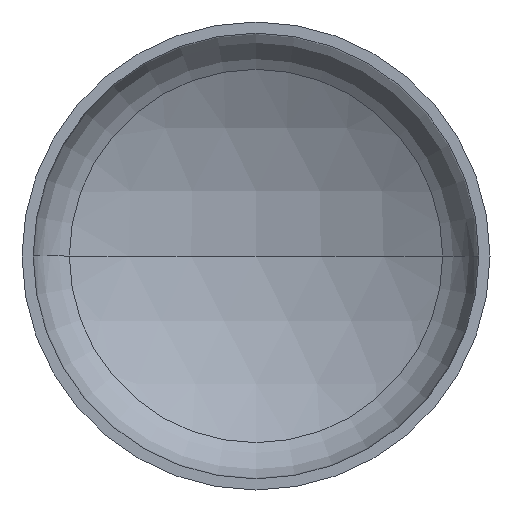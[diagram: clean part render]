
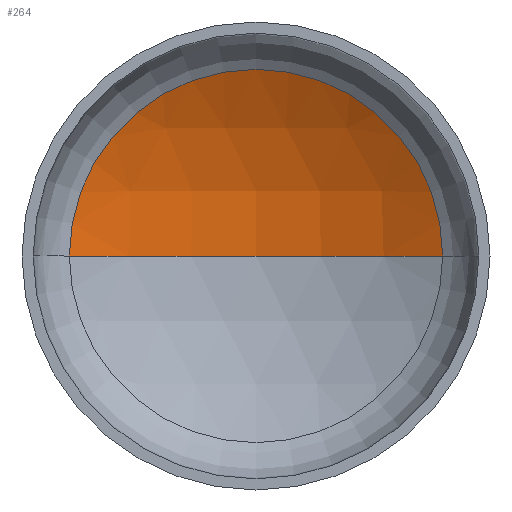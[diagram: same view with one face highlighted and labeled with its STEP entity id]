
A CAD part, front view. The second image highlights one B-rep face of the part: STEP entity #264.
In plain terms, the highlighted spherical face has radius 2880 mm.
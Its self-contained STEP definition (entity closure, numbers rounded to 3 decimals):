
#7 = ORIENTED_EDGE ( 'NONE', *, *, #259, .T. ) ;
#16 = DIRECTION ( 'NONE',  ( -1., 0., 0. ) ) ;
#18 = DIRECTION ( 'NONE',  ( 0., 0., -1. ) ) ;
#21 = CARTESIAN_POINT ( 'NONE',  ( 0., -1915.526, 0. ) ) ;
#25 = VERTEX_POINT ( 'NONE', #348 ) ;
#27 = EDGE_LOOP ( 'NONE', ( #162, #7, #133 ) ) ;
#30 = DIRECTION ( 'NONE',  ( -1., 0., 0. ) ) ;
#67 = SPHERICAL_SURFACE ( 'NONE', #82, 2880. ) ;
#82 = AXIS2_PLACEMENT_3D ( 'NONE', #135, #273, #30 ) ;
#83 = CIRCLE ( 'NONE', #103, 1435.665 ) ;
#89 = AXIS2_PLACEMENT_3D ( 'NONE', #386, #381, #380 ) ;
#102 = AXIS2_PLACEMENT_3D ( 'NONE', #21, #18, #16 ) ;
#103 = AXIS2_PLACEMENT_3D ( 'NONE', #226, #225, #137 ) ;
#133 = ORIENTED_EDGE ( 'NONE', *, *, #256, .T. ) ;
#135 = CARTESIAN_POINT ( 'NONE',  ( 0., -1915.526, 0. ) ) ;
#137 = DIRECTION ( 'NONE',  ( 1., 0., 0. ) ) ;
#140 = VERTEX_POINT ( 'NONE', #322 ) ;
#149 = VERTEX_POINT ( 'NONE', #323 ) ;
#162 = ORIENTED_EDGE ( 'NONE', *, *, #266, .F. ) ;
#187 = FACE_OUTER_BOUND ( 'NONE', #27, .T. ) ;
#225 = DIRECTION ( 'NONE',  ( 0., -1., 0. ) ) ;
#226 = CARTESIAN_POINT ( 'NONE',  ( 0., 581.125, 0. ) ) ;
#256 = EDGE_CURVE ( 'NONE', #140, #149, #83, .T. ) ;
#258 = CIRCLE ( 'NONE', #102, 2880. ) ;
#259 = EDGE_CURVE ( 'NONE', #25, #140, #258, .T. ) ;
#264 = ADVANCED_FACE ( 'NONE', ( #187 ), #67, .F. ) ;
#266 = EDGE_CURVE ( 'NONE', #25, #149, #318, .T. ) ;
#273 = DIRECTION ( 'NONE',  ( 0., 0., -1. ) ) ;
#318 = CIRCLE ( 'NONE', #89, 2880. ) ;
#322 = CARTESIAN_POINT ( 'NONE',  ( 1435.665, 581.125, 0. ) ) ;
#323 = CARTESIAN_POINT ( 'NONE',  ( -1435.665, 581.125, 0. ) ) ;
#348 = CARTESIAN_POINT ( 'NONE',  ( 0., 964.474, 0. ) ) ;
#380 = DIRECTION ( 'NONE',  ( 1., 0., 0. ) ) ;
#381 = DIRECTION ( 'NONE',  ( 0., 0., 1. ) ) ;
#386 = CARTESIAN_POINT ( 'NONE',  ( 0., -1915.526, 0. ) ) ;
